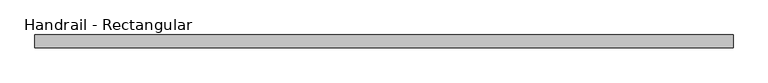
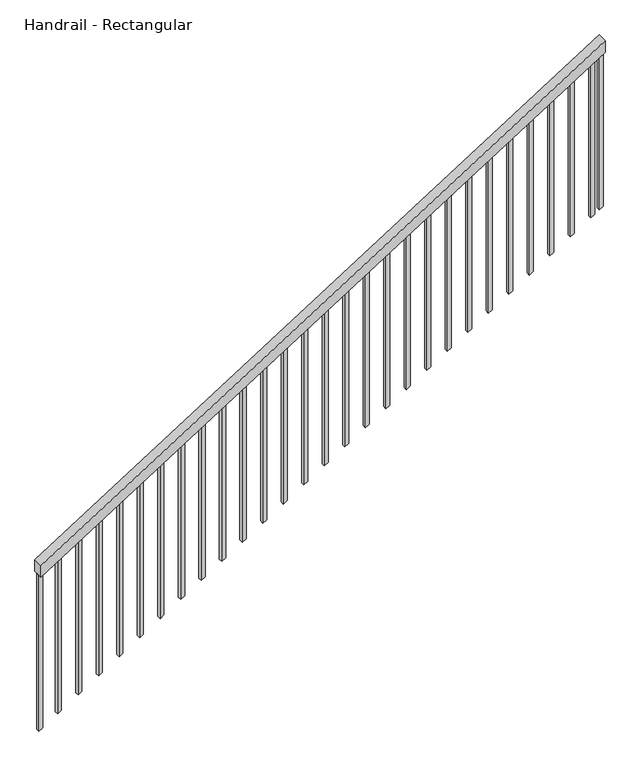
"""IFC4 building model written with IfcOpenShell, lengths in millimetres: railing geometry, Handrail - Rectangular."""

from ifc_helpers import new_model, si_unit, frame, origin, place, context, project, spatial, polyline, outline, extrude, source, transform, mapped, element, save


def handrail_rectangular_bf8ceb73(model_context):
    return source(origin(), model_context, "Body", "SweptSolid", [
        extrude(outline(polyline([(914.4, 44662.5441131), (854.2680756, 44662.5441131), (2624.0745272, 47456.8606829), (2684.2064516, 47456.8606829), (914.4, 44662.5441131)])), frame((0.0, 26855.8599629, 0.0), z_axis=(0.0, 1.0, 0.0), x_axis=(0.0, 0.0, 1.0)), (0.0, 0.0, 1.0), 50.8),
        extrude(outline(polyline([(2585.6570021, 47396.2191131), (1769.1347018, 47396.2191131), (1781.201564, 47415.2691131), (2597.7238643, 47415.2691131), (2585.6570021, 47396.2191131)])), frame((0.0, 26871.7349629, 0.0), z_axis=(0.0, 1.0, 0.0), x_axis=(0.0, 0.0, 1.0)), (0.0, 0.0, 1.0), 19.05),
        extrude(outline(polyline([(2521.3076949, 47294.6191131), (1704.7853946, 47294.6191131), (1716.8522568, 47313.6691131), (2533.3745571, 47313.6691131), (2521.3076949, 47294.6191131)])), frame((0.0, 26871.7349629, 0.0), z_axis=(0.0, 1.0, 0.0), x_axis=(0.0, 0.0, 1.0)), (0.0, 0.0, 1.0), 19.05),
        extrude(outline(polyline([(2456.9583877, 47193.0191131), (1640.4360874, 47193.0191131), (1652.5029495, 47212.0691131), (2469.0252498, 47212.0691131), (2456.9583877, 47193.0191131)])), frame((0.0, 26871.7349629, 0.0), z_axis=(0.0, 1.0, 0.0), x_axis=(0.0, 0.0, 1.0)), (0.0, 0.0, 1.0), 19.05),
        extrude(outline(polyline([(2392.6090804, 47091.4191131), (1576.0867801, 47091.4191131), (1588.1536423, 47110.4691131), (2404.6759426, 47110.4691131), (2392.6090804, 47091.4191131)])), frame((0.0, 26871.7349629, 0.0), z_axis=(0.0, 1.0, 0.0), x_axis=(0.0, 0.0, 1.0)), (0.0, 0.0, 1.0), 19.05),
        extrude(outline(polyline([(2328.2597732, 46989.8191131), (1511.7374729, 46989.8191131), (1523.804335, 47008.8691131), (2340.3266353, 47008.8691131), (2328.2597732, 46989.8191131)])), frame((0.0, 26871.7349629, 0.0), z_axis=(0.0, 1.0, 0.0), x_axis=(0.0, 0.0, 1.0)), (0.0, 0.0, 1.0), 19.05),
        extrude(outline(polyline([(2263.9104659, 46888.2191131), (1447.3881656, 46888.2191131), (1459.4550278, 46907.2691131), (2275.9773281, 46907.2691131), (2263.9104659, 46888.2191131)])), frame((0.0, 26871.7349629, 0.0), z_axis=(0.0, 1.0, 0.0), x_axis=(0.0, 0.0, 1.0)), (0.0, 0.0, 1.0), 19.05),
        extrude(outline(polyline([(2199.5611587, 46786.6191131), (1383.0388584, 46786.6191131), (1395.1057206, 46805.6691131), (2211.6280209, 46805.6691131), (2199.5611587, 46786.6191131)])), frame((0.0, 26871.7349629, 0.0), z_axis=(0.0, 1.0, 0.0), x_axis=(0.0, 0.0, 1.0)), (0.0, 0.0, 1.0), 19.05),
        extrude(outline(polyline([(2135.2118514, 46685.0191131), (1318.6895511, 46685.0191131), (1330.7564133, 46704.0691131), (2147.2787136, 46704.0691131), (2135.2118514, 46685.0191131)])), frame((0.0, 26871.7349629, 0.0), z_axis=(0.0, 1.0, 0.0), x_axis=(0.0, 0.0, 1.0)), (0.0, 0.0, 1.0), 19.05),
        extrude(outline(polyline([(2070.8625442, 46583.4191131), (1254.3402439, 46583.4191131), (1266.4071061, 46602.4691131), (2082.9294064, 46602.4691131), (2070.8625442, 46583.4191131)])), frame((0.0, 26871.7349629, 0.0), z_axis=(0.0, 1.0, 0.0), x_axis=(0.0, 0.0, 1.0)), (0.0, 0.0, 1.0), 19.05),
        extrude(outline(polyline([(2006.513237, 46481.8191131), (1189.9909367, 46481.8191131), (1202.0577988, 46500.8691131), (2018.5800991, 46500.8691131), (2006.513237, 46481.8191131)])), frame((0.0, 26871.7349629, 0.0), z_axis=(0.0, 1.0, 0.0), x_axis=(0.0, 0.0, 1.0)), (0.0, 0.0, 1.0), 19.05),
        extrude(outline(polyline([(1942.1639297, 46380.2191131), (1125.6416294, 46380.2191131), (1137.7084916, 46399.2691131), (1954.2307919, 46399.2691131), (1942.1639297, 46380.2191131)])), frame((0.0, 26871.7349629, 0.0), z_axis=(0.0, 1.0, 0.0), x_axis=(0.0, 0.0, 1.0)), (0.0, 0.0, 1.0), 19.05),
        extrude(outline(polyline([(1877.8146225, 46278.6191131), (1061.2923222, 46278.6191131), (1073.3591843, 46297.6691131), (1889.8814846, 46297.6691131), (1877.8146225, 46278.6191131)])), frame((0.0, 26871.7349629, 0.0), z_axis=(0.0, 1.0, 0.0), x_axis=(0.0, 0.0, 1.0)), (0.0, 0.0, 1.0), 19.05),
        extrude(outline(polyline([(1813.4653152, 46177.0191131), (996.9430149, 46177.0191131), (1009.0098771, 46196.0691131), (1825.5321774, 46196.0691131), (1813.4653152, 46177.0191131)])), frame((0.0, 26871.7349629, 0.0), z_axis=(0.0, 1.0, 0.0), x_axis=(0.0, 0.0, 1.0)), (0.0, 0.0, 1.0), 19.05),
        extrude(outline(polyline([(1749.116008, 46075.4191131), (932.5937077, 46075.4191131), (944.6605699, 46094.4691131), (1761.1828702, 46094.4691131), (1749.116008, 46075.4191131)])), frame((0.0, 26871.7349629, 0.0), z_axis=(0.0, 1.0, 0.0), x_axis=(0.0, 0.0, 1.0)), (0.0, 0.0, 1.0), 19.05),
        extrude(outline(polyline([(1684.7667007, 45973.8191131), (868.2444004, 45973.8191131), (880.3112626, 45992.8691131), (1696.8335629, 45992.8691131), (1684.7667007, 45973.8191131)])), frame((0.0, 26871.7349629, 0.0), z_axis=(0.0, 1.0, 0.0), x_axis=(0.0, 0.0, 1.0)), (0.0, 0.0, 1.0), 19.05),
        extrude(outline(polyline([(1620.4173935, 45872.2191131), (803.8950932, 45872.2191131), (815.9619554, 45891.2691131), (1632.4842557, 45891.2691131), (1620.4173935, 45872.2191131)])), frame((0.0, 26871.7349629, 0.0), z_axis=(0.0, 1.0, 0.0), x_axis=(0.0, 0.0, 1.0)), (0.0, 0.0, 1.0), 19.05),
        extrude(outline(polyline([(1556.0680863, 45770.6191131), (739.545786, 45770.6191131), (751.6126481, 45789.6691131), (1568.1349484, 45789.6691131), (1556.0680863, 45770.6191131)])), frame((0.0, 26871.7349629, 0.0), z_axis=(0.0, 1.0, 0.0), x_axis=(0.0, 0.0, 1.0)), (0.0, 0.0, 1.0), 19.05),
        extrude(outline(polyline([(1491.718779, 45669.0191131), (675.1964787, 45669.0191131), (687.2633409, 45688.0691131), (1503.7856412, 45688.0691131), (1491.718779, 45669.0191131)])), frame((0.0, 26871.7349629, 0.0), z_axis=(0.0, 1.0, 0.0), x_axis=(0.0, 0.0, 1.0)), (0.0, 0.0, 1.0), 19.05),
        extrude(outline(polyline([(1427.3694718, 45567.4191131), (610.8471715, 45567.4191131), (622.9140336, 45586.4691131), (1439.4363339, 45586.4691131), (1427.3694718, 45567.4191131)])), frame((0.0, 26871.7349629, 0.0), z_axis=(0.0, 1.0, 0.0), x_axis=(0.0, 0.0, 1.0)), (0.0, 0.0, 1.0), 19.05),
        extrude(outline(polyline([(1363.0201645, 45465.8191131), (546.4978642, 45465.8191131), (558.5647264, 45484.8691131), (1375.0870267, 45484.8691131), (1363.0201645, 45465.8191131)])), frame((0.0, 26871.7349629, 0.0), z_axis=(0.0, 1.0, 0.0), x_axis=(0.0, 0.0, 1.0)), (0.0, 0.0, 1.0), 19.05),
        extrude(outline(polyline([(1298.6708573, 45364.2191131), (482.148557, 45364.2191131), (494.2154192, 45383.2691131), (1310.7377195, 45383.2691131), (1298.6708573, 45364.2191131)])), frame((0.0, 26871.7349629, 0.0), z_axis=(0.0, 1.0, 0.0), x_axis=(0.0, 0.0, 1.0)), (0.0, 0.0, 1.0), 19.05),
        extrude(outline(polyline([(1234.32155, 45262.6191131), (417.7992497, 45262.6191131), (429.8661119, 45281.6691131), (1246.3884122, 45281.6691131), (1234.32155, 45262.6191131)])), frame((0.0, 26871.7349629, 0.0), z_axis=(0.0, 1.0, 0.0), x_axis=(0.0, 0.0, 1.0)), (0.0, 0.0, 1.0), 19.05),
        extrude(outline(polyline([(1169.9722428, 45161.0191131), (353.4499425, 45161.0191131), (365.5168047, 45180.0691131), (1182.039105, 45180.0691131), (1169.9722428, 45161.0191131)])), frame((0.0, 26871.7349629, 0.0), z_axis=(0.0, 1.0, 0.0), x_axis=(0.0, 0.0, 1.0)), (0.0, 0.0, 1.0), 19.05),
        extrude(outline(polyline([(1105.6229356, 45059.4191131), (289.1006353, 45059.4191131), (301.1674974, 45078.4691131), (1117.6897977, 45078.4691131), (1105.6229356, 45059.4191131)])), frame((0.0, 26871.7349629, 0.0), z_axis=(0.0, 1.0, 0.0), x_axis=(0.0, 0.0, 1.0)), (0.0, 0.0, 1.0), 19.05),
        extrude(outline(polyline([(1041.2736283, 44957.8191131), (224.751328, 44957.8191131), (236.8181902, 44976.8691131), (1053.3404905, 44976.8691131), (1041.2736283, 44957.8191131)])), frame((0.0, 26871.7349629, 0.0), z_axis=(0.0, 1.0, 0.0), x_axis=(0.0, 0.0, 1.0)), (0.0, 0.0, 1.0), 19.05),
        extrude(outline(polyline([(976.9243211, 44856.2191131), (160.4020208, 44856.2191131), (172.4688829, 44875.2691131), (988.9911832, 44875.2691131), (976.9243211, 44856.2191131)])), frame((0.0, 26871.7349629, 0.0), z_axis=(0.0, 1.0, 0.0), x_axis=(0.0, 0.0, 1.0)), (0.0, 0.0, 1.0), 19.05),
        extrude(outline(polyline([(912.5750138, 44754.6191131), (96.0527135, 44754.6191131), (108.1195757, 44773.6691131), (924.641876, 44773.6691131), (912.5750138, 44754.6191131)])), frame((0.0, 26871.7349629, 0.0), z_axis=(0.0, 1.0, 0.0), x_axis=(0.0, 0.0, 1.0)), (0.0, 0.0, 1.0), 19.05),
        extrude(outline(polyline([(2611.9994106, 47437.8106829), (1795.4771103, 47437.8106829), (1807.5439725, 47456.8606829), (2624.0662728, 47456.8606829), (2611.9994106, 47437.8106829)])), frame((0.0, 26871.7349629, 0.0), z_axis=(0.0, 1.0, 0.0), x_axis=(0.0, 0.0, 1.0)), (0.0, 0.0, 1.0), 19.05),
        extrude(outline(polyline([(854.2584541, 44662.5441131), (37.7361538, 44662.5441131), (49.803016, 44681.5941131), (866.3253163, 44681.5941131), (854.2584541, 44662.5441131)])), frame((0.0, 26871.7349629, 0.0), z_axis=(0.0, 1.0, 0.0), x_axis=(0.0, 0.0, 1.0)), (0.0, 0.0, 1.0), 19.05),
    ])


if __name__ == "__main__":
    model = new_model("IFC4")
    model_context = context("Model", 3, world=origin())
    ifc_project = project(units=[si_unit("LENGTHUNIT", "METRE", prefix="MILLI")], contexts=[model_context])
    site = spatial("IfcSite", under=ifc_project)
    building = spatial("IfcBuilding", under=site)
    placement = place(None, origin())
    handrail_rectangular_shape = handrail_rectangular_bf8ceb73(model_context)
    element("IfcRailing", 1, ObjectType="Handrail - Rectangular", at=placement, inside=building, context=model_context, shape_type="MappedRepresentation", body=[
        mapped(handrail_rectangular_shape, transform((0.0, 0.0, 0.0), x_axis=(1.0, 0.0, 0.0), y_axis=(0.0, 1.0, 0.0), z_axis=(0.0, 0.0, 1.0))),
    ])
    save(model, "model.ifc")
